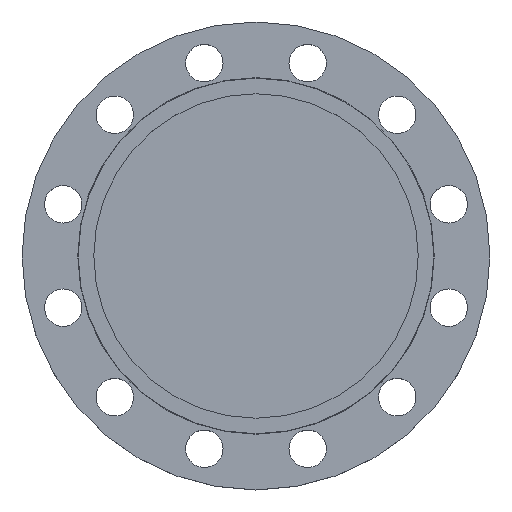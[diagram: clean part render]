
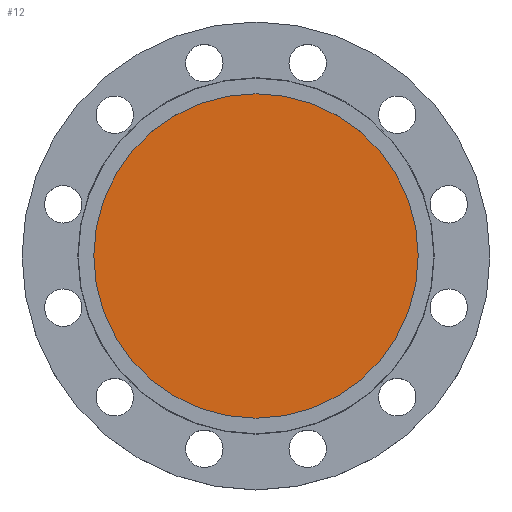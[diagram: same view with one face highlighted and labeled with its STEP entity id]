
A CAD part, top view. The second image highlights one B-rep face of the part: STEP entity #12.
In plain terms, the highlighted planar face has unit normal (0, 0, 1).
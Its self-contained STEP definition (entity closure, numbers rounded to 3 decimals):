
#12 = ADVANCED_FACE ( 'NONE', ( #875 ), #874, .T. ) ;
#41 = CARTESIAN_POINT ( 'NONE',  ( -130., 0., -4.5 ) ) ;
#112 = CARTESIAN_POINT ( 'NONE',  ( 130., 0., -4.5 ) ) ;
#123 = DIRECTION ( 'NONE',  ( -1., 0., 0. ) ) ;
#125 = DIRECTION ( 'NONE',  ( 0., 0., -1. ) ) ;
#126 = CARTESIAN_POINT ( 'NONE',  ( 0., 0., -4.5 ) ) ;
#312 = DIRECTION ( 'NONE',  ( -1., 0., 0. ) ) ;
#313 = DIRECTION ( 'NONE',  ( 0., 0., -1. ) ) ;
#314 = CARTESIAN_POINT ( 'NONE',  ( 0., 0., -4.5 ) ) ;
#597 = AXIS2_PLACEMENT_3D ( 'NONE', #872, #871, #870 ) ;
#870 = DIRECTION ( 'NONE',  ( 1., 0., 0. ) ) ;
#871 = DIRECTION ( 'NONE',  ( 0., 0., 1. ) ) ;
#872 = CARTESIAN_POINT ( 'NONE',  ( 130., 0., -4.5 ) ) ;
#874 = PLANE ( 'NONE',  #597 ) ;
#875 = FACE_OUTER_BOUND ( 'NONE', #1347, .T. ) ;
#904 = CIRCLE ( 'NONE', #1010, 130. ) ;
#962 = CIRCLE ( 'NONE', #997, 130. ) ;
#963 = EDGE_CURVE ( 'NONE', #1329, #1399, #962, .T. ) ;
#997 = AXIS2_PLACEMENT_3D ( 'NONE', #314, #313, #312 ) ;
#1010 = AXIS2_PLACEMENT_3D ( 'NONE', #126, #125, #123 ) ;
#1200 = ORIENTED_EDGE ( 'NONE', *, *, #1314, .F. ) ;
#1201 = ORIENTED_EDGE ( 'NONE', *, *, #963, .F. ) ;
#1314 = EDGE_CURVE ( 'NONE', #1399, #1329, #904, .T. ) ;
#1329 = VERTEX_POINT ( 'NONE', #112 ) ;
#1347 = EDGE_LOOP ( 'NONE', ( #1200, #1201 ) ) ;
#1399 = VERTEX_POINT ( 'NONE', #41 ) ;
